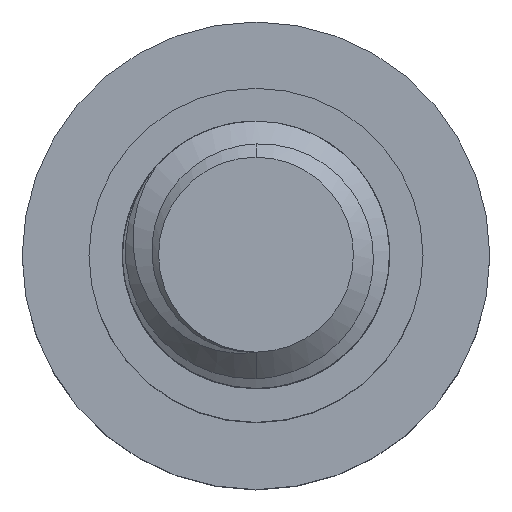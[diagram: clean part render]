
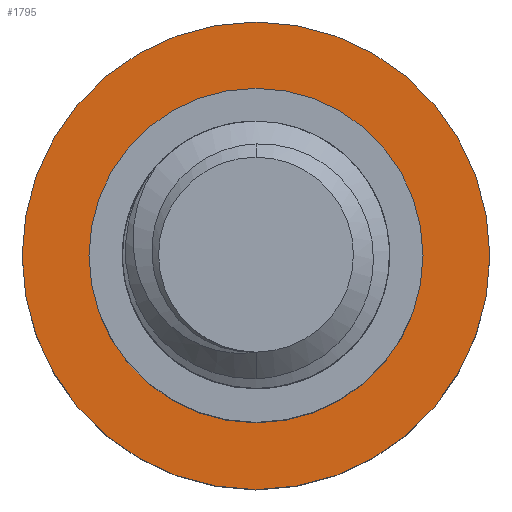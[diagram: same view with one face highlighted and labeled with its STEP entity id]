
A CAD part, top view. The second image highlights one B-rep face of the part: STEP entity #1795.
In plain terms, the highlighted planar face has unit normal (0, 0, 1).
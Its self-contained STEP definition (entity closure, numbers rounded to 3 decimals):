
#68 = DIRECTION ( 'NONE',  ( 0., 0., -1. ) ) ;
#129 = EDGE_LOOP ( 'NONE', ( #935, #2120 ) ) ;
#335 = VERTEX_POINT ( 'NONE', #1851 ) ;
#420 = AXIS2_PLACEMENT_3D ( 'NONE', #3297, #3921, #990 ) ;
#437 = CARTESIAN_POINT ( 'NONE',  ( -7., 0., -8. ) ) ;
#507 = EDGE_CURVE ( 'NONE', #3769, #881, #1239, .T. ) ;
#574 = EDGE_CURVE ( 'NONE', #881, #3769, #2254, .T. ) ;
#881 = VERTEX_POINT ( 'NONE', #437 ) ;
#935 = ORIENTED_EDGE ( 'NONE', *, *, #4202, .T. ) ;
#990 = DIRECTION ( 'NONE',  ( -1., 0., 0. ) ) ;
#1167 = DIRECTION ( 'NONE',  ( -1., 0., 0. ) ) ;
#1213 = CARTESIAN_POINT ( 'NONE',  ( 7., 0., -8. ) ) ;
#1215 = DIRECTION ( 'NONE',  ( 0., 0., -1. ) ) ;
#1239 = CIRCLE ( 'NONE', #420, 7. ) ;
#1278 = CARTESIAN_POINT ( 'NONE',  ( 0., 0., -8. ) ) ;
#1353 = VERTEX_POINT ( 'NONE', #2925 ) ;
#1556 = DIRECTION ( 'NONE',  ( 0., 0., -1. ) ) ;
#1588 = CARTESIAN_POINT ( 'NONE',  ( 0., 0., -8. ) ) ;
#1593 = FACE_BOUND ( 'NONE', #129, .T. ) ;
#1689 = EDGE_LOOP ( 'NONE', ( #3290, #4204 ) ) ;
#1795 = ADVANCED_FACE ( 'NONE', ( #1593, #2236 ), #3833, .F. ) ;
#1851 = CARTESIAN_POINT ( 'NONE',  ( 5., 0., -8. ) ) ;
#1960 = CARTESIAN_POINT ( 'NONE',  ( 0., 0., -8. ) ) ;
#2120 = ORIENTED_EDGE ( 'NONE', *, *, #2843, .T. ) ;
#2236 = FACE_OUTER_BOUND ( 'NONE', #1689, .T. ) ;
#2254 = CIRCLE ( 'NONE', #3009, 7. ) ;
#2321 = AXIS2_PLACEMENT_3D ( 'NONE', #1960, #3656, #3330 ) ;
#2326 = AXIS2_PLACEMENT_3D ( 'NONE', #1278, #1556, #2580 ) ;
#2330 = CIRCLE ( 'NONE', #2405, 5. ) ;
#2405 = AXIS2_PLACEMENT_3D ( 'NONE', #1588, #1215, #3197 ) ;
#2580 = DIRECTION ( 'NONE',  ( -1., 0., 0. ) ) ;
#2843 = EDGE_CURVE ( 'NONE', #335, #1353, #2330, .T. ) ;
#2925 = CARTESIAN_POINT ( 'NONE',  ( -5., 0., -8. ) ) ;
#2994 = CARTESIAN_POINT ( 'NONE',  ( 0., 0., -8. ) ) ;
#3009 = AXIS2_PLACEMENT_3D ( 'NONE', #2994, #68, #1167 ) ;
#3197 = DIRECTION ( 'NONE',  ( -1., 0., 0. ) ) ;
#3290 = ORIENTED_EDGE ( 'NONE', *, *, #507, .F. ) ;
#3297 = CARTESIAN_POINT ( 'NONE',  ( 0., 0., -8. ) ) ;
#3330 = DIRECTION ( 'NONE',  ( -1., 0., 0. ) ) ;
#3429 = CIRCLE ( 'NONE', #2321, 5. ) ;
#3656 = DIRECTION ( 'NONE',  ( 0., 0., -1. ) ) ;
#3769 = VERTEX_POINT ( 'NONE', #1213 ) ;
#3833 = PLANE ( 'NONE',  #2326 ) ;
#3921 = DIRECTION ( 'NONE',  ( 0., 0., -1. ) ) ;
#4202 = EDGE_CURVE ( 'NONE', #1353, #335, #3429, .T. ) ;
#4204 = ORIENTED_EDGE ( 'NONE', *, *, #574, .F. ) ;
